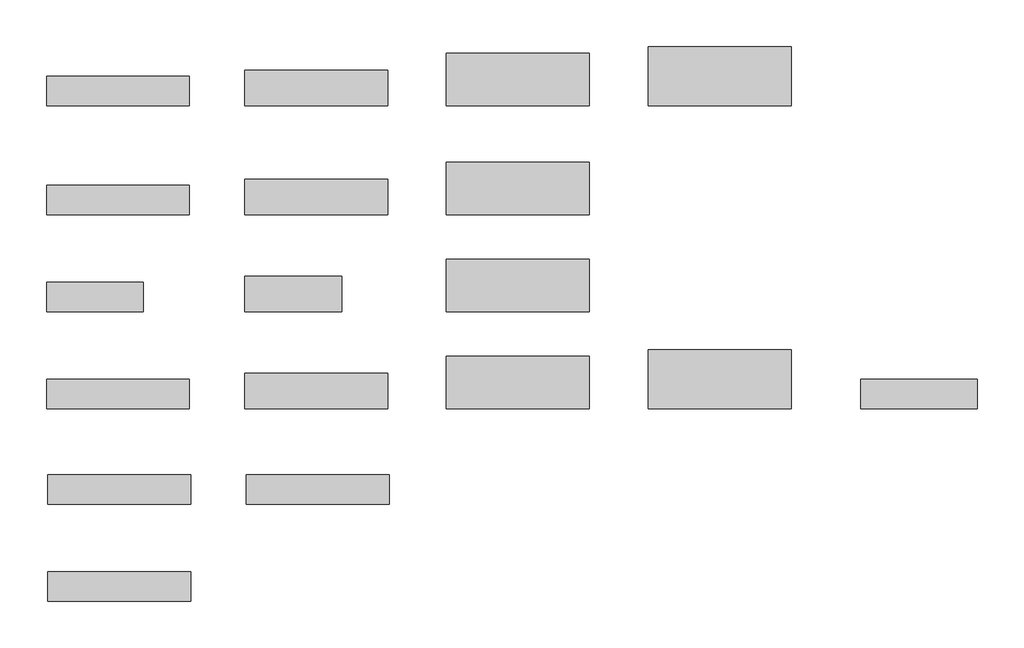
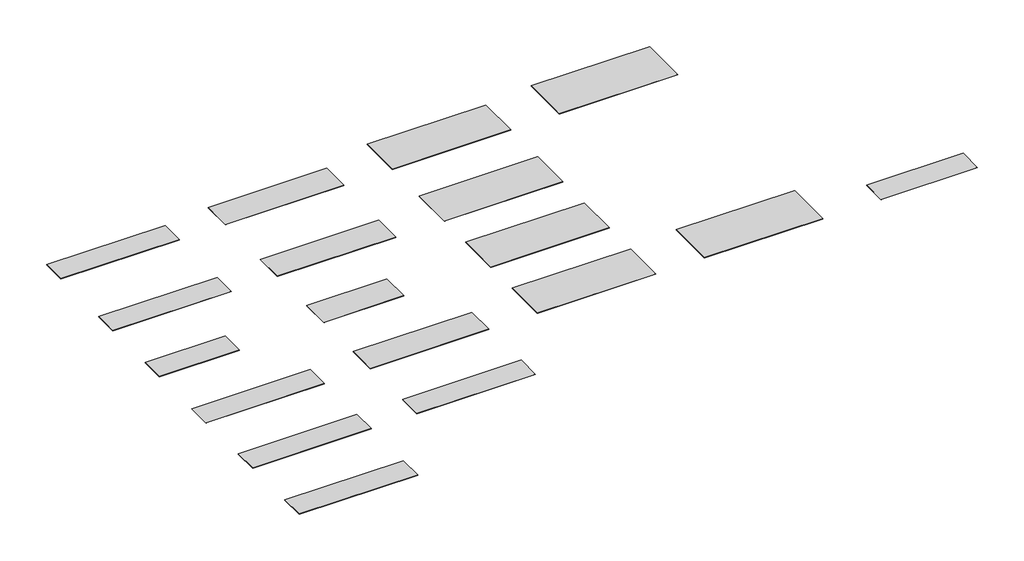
# One storey: 18 proxies.
"""IFC4 building model written with IfcOpenShell, lengths in millimetres."""

import ifcopenshell
import ifcopenshell.guid

model = None  # the IFC model being written
_history = None  # IfcOwnerHistory: only IFC2X3 demands one
_inside = {}  # id of a spatial element -> (the spatial element, [elements in it])
_under = {}  # id of a project, library or spatial element -> (it, [spatial elements below it])
_declared = {}  # id of a project -> (the project, [libraries it declares])
_typed = {}  # id of a type object -> (the type object, [elements of that type])
_made_of = {}  # id of a material, layer set ... -> (it, [elements and type objects made of it])


def new_model(schema):
    """Start an empty IFC model of exactly this schema.

    Asked for "IFC4X3", IfcOpenShell would pick the latest addendum, in which some entities
    have other attributes; the version numbers below select the first issue.
    IFC2X3 requires an IfcOwnerHistory on every rooted entity: one is made here for all.
    """
    global model, _history
    if schema == "IFC4X3":
        model = ifcopenshell.file(schema_version=(4, 3, 0, 0))
    else:
        model = ifcopenshell.file(schema=schema)
    _inside.clear()
    _under.clear()
    _declared.clear()
    _typed.clear()
    _made_of.clear()
    _history = None
    if model.schema == "IFC2X3":
        org = make("IfcOrganization", Name="unknown")
        user = make(
            "IfcPersonAndOrganization",
            ThePerson=make("IfcPerson", FamilyName="unknown"),
            TheOrganization=org,
        )
        app = make(
            "IfcApplication",
            ApplicationDeveloper=org,
            Version="unknown",
            ApplicationFullName="unknown",
            ApplicationIdentifier="unknown",
        )
        _history = make(
            "IfcOwnerHistory",
            OwningUser=user,
            OwningApplication=app,
            ChangeAction="ADDED",
            CreationDate=0,
        )
    return model


def make(cls, **values):
    """One entity of the class cls with the attributes given. An attribute that is None is left unset."""
    return model.create_entity(
        cls, **{name: value for name, value in values.items() if value is not None}
    )


def rooted(cls, **values):
    """An entity with a GlobalId (a new one), such as an element, a storey or a relation."""
    return make(cls, GlobalId=ifcopenshell.guid.new(), OwnerHistory=_history, **values)


def si_unit(unit_type, name, prefix=None):
    """IfcSIUnit, for example si_unit("LENGTHUNIT", "METRE", prefix="MILLI")."""
    return make("IfcSIUnit", UnitType=unit_type, Prefix=prefix, Name=name)


def assignment(units):
    """IfcUnitAssignment: the units of a project."""
    return None if units is None else make("IfcUnitAssignment", Units=units)


def point(xyz):
    """IfcCartesianPoint."""
    return None if xyz is None else make("IfcCartesianPoint", Coordinates=xyz)


def direction(xyz):
    """IfcDirection."""
    return None if xyz is None else make("IfcDirection", DirectionRatios=xyz)


def frame(location, z_axis=None, x_axis=None):
    """IfcAxis2Placement3D, a coordinate frame: its origin and axes. An axis left out is left unset."""
    return make(
        "IfcAxis2Placement3D",
        Location=point(location),
        Axis=direction(z_axis),
        RefDirection=direction(x_axis),
    )


def origin():
    """The frame at (0, 0, 0) with its axes left unset."""
    return frame((0.0, 0.0, 0.0))


def origin_with_axes():
    """The frame at (0, 0, 0) with the z axis (0, 0, 1) and the x axis (1, 0, 0) written out."""
    return frame((0.0, 0.0, 0.0), z_axis=(0.0, 0.0, 1.0), x_axis=(1.0, 0.0, 0.0))


def place(relative_to, where):
    """IfcLocalPlacement: puts the frame where relative to a parent placement (None: the world)."""
    return make(
        "IfcLocalPlacement", PlacementRelTo=relative_to, RelativePlacement=where
    )


def context(
    kind, dimensions, precision=None, world=None, true_north=None, identifier=None
):
    """IfcGeometricRepresentationContext, for example the 3D "Model" context."""
    return make(
        "IfcGeometricRepresentationContext",
        ContextIdentifier=identifier,
        ContextType=kind,
        CoordinateSpaceDimension=dimensions,
        Precision=precision,
        WorldCoordinateSystem=world,
        TrueNorth=true_north,
    )


def project(units=None, contexts=None):
    """IfcProject with its units and contexts."""
    return rooted(
        "IfcProject",
        Name="project",
        RepresentationContexts=contexts,
        UnitsInContext=assignment(units),
    )


def spatial(cls, under=None, at=None, **own):
    """A site, building, storey or space (cls), placed at a placement, below another one or the project."""
    s = rooted(cls, ObjectPlacement=at, **own)
    if under is not None:
        _under.setdefault(under.id(), (under, []))[1].append(s)
    return s


def polyline(points):
    """IfcPolyline through the points."""
    return make("IfcPolyline", Points=[point(p) for p in points])


def outline(outer, holes=None, kind="AREA"):
    """IfcArbitraryClosedProfileDef: a profile drawn as a closed curve; with holes, ...WithVoids."""
    if holes is None:
        return make("IfcArbitraryClosedProfileDef", ProfileType=kind, OuterCurve=outer)
    return make(
        "IfcArbitraryProfileDefWithVoids",
        ProfileType=kind,
        OuterCurve=outer,
        InnerCurves=holes,
    )


def extrude(swept, where, along, depth):
    """IfcExtrudedAreaSolid: the profile swept, set in the frame where, extruded along a direction by depth."""
    return make(
        "IfcExtrudedAreaSolid",
        SweptArea=swept,
        Position=where,
        ExtrudedDirection=direction(along),
        Depth=depth,
    )


def shape(context_of_items, identifier, shape_type, items):
    """IfcShapeRepresentation: the items that make up one representation, for example the "Body"."""
    return make(
        "IfcShapeRepresentation",
        ContextOfItems=context_of_items,
        RepresentationIdentifier=identifier,
        RepresentationType=shape_type,
        Items=items,
    )


def source(mapping_origin, context_of_items, identifier, shape_type, items):
    """IfcRepresentationMap: a shape defined once, which mapped items show again and again."""
    return make(
        "IfcRepresentationMap",
        MappingOrigin=mapping_origin,
        MappedRepresentation=shape(context_of_items, identifier, shape_type, items),
    )


def transform(
    local_origin,
    x_axis=None,
    y_axis=None,
    z_axis=None,
    scale=None,
    scale2=None,
    scale3=None,
    uniform=True,
):
    """IfcCartesianTransformationOperator3D, or its non-uniform kind. x_axis, y_axis, z_axis: its Axis1, 2, 3."""
    if uniform:
        return make(
            "IfcCartesianTransformationOperator3D",
            Axis1=direction(x_axis),
            Axis2=direction(y_axis),
            LocalOrigin=point(local_origin),
            Scale=scale,
            Axis3=direction(z_axis),
        )
    return make(
        "IfcCartesianTransformationOperator3DnonUniform",
        Axis1=direction(x_axis),
        Axis2=direction(y_axis),
        LocalOrigin=point(local_origin),
        Scale=scale,
        Axis3=direction(z_axis),
        Scale2=scale2,
        Scale3=scale3,
    )


def mapped(mapping_source, mapping_target):
    """IfcMappedItem: shows the shape of a source again, moved by a transform."""
    return make(
        "IfcMappedItem", MappingSource=mapping_source, MappingTarget=mapping_target
    )


def made_of(thing, what):
    """Note that an element or type object is made of a material, layer set ...; save() writes the relation."""
    if what is not None:
        _made_of.setdefault(what.id(), (what, []))[1].append(thing)
    return thing


def element(
    cls,
    number,
    at=None,
    inside=None,
    cuts=None,
    type_object=None,
    material=None,
    context=None,
    identifier="Body",
    shape_type=None,
    held_by="IfcProductDefinitionShape",
    body=None,
    shapes=None,
    **own,
):
    """One element of the class cls, such as IfcWall. Its Tag is "e" and its number.

    at: its placement. inside: the storey or other place that contains it. cuts: it is an
    opening in that element (IfcRelVoidsElement). A single representation is given by context,
    identifier, shape_type and body (its items); several are given by shapes. held_by: the class
    of the entity that holds the representations. save() writes the other relations.
    """
    e = rooted(cls, Tag="e%d" % number, ObjectPlacement=at, **own)
    if body is not None:
        shapes = [shape(context, identifier, shape_type, body)]
    if shapes is not None:
        e.Representation = make(held_by, Representations=shapes)
    if inside is not None:
        _inside.setdefault(inside.id(), (inside, []))[1].append(e)
    if cuts is not None:
        rooted(
            "IfcRelVoidsElement", RelatingBuildingElement=cuts, RelatedOpeningElement=e
        )
    if type_object is not None:
        _typed.setdefault(type_object.id(), (type_object, []))[1].append(e)
    return made_of(e, material)


def aggregate(whole, parts):
    """IfcRelAggregates: a whole, such as a stair, and the parts it consists of."""
    return rooted("IfcRelAggregates", RelatingObject=whole, RelatedObjects=parts)


def save(model, path):
    """Write the relations noted so far, then the file.

    IfcRelAggregates (storeys below a building ...), IfcRelContainedInSpatialStructure (elements
    in a storey), IfcRelDefinesByType, IfcRelAssociatesMaterial and IfcRelDeclares: one each for
    every whole, place, type object, material and project.
    """
    for whole, parts in _under.values():
        aggregate(whole, parts)
    for where, things in _inside.values():
        rooted(
            "IfcRelContainedInSpatialStructure",
            RelatedElements=things,
            RelatingStructure=where,
        )
    for kind, things in _typed.values():
        rooted("IfcRelDefinesByType", RelatedObjects=things, RelatingType=kind)
    for what, things in _made_of.values():
        rooted("IfcRelAssociatesMaterial", RelatedObjects=things, RelatingMaterial=what)
    for by, libraries in _declared.values():
        rooted("IfcRelDeclares", RelatingContext=by, RelatedDefinitions=libraries)
    model.write(path)


def g034_arctic_granite_12mm_760x3680mm_7f56e2ab(model_context):
    return source(origin(), model_context, "Body", "SweptSolid", [
        extrude(outline(polyline([(1840.0, 380.0), (1840.0, -380.0), (-1840.0, -380.0), (-1840.0, 380.0), (1840.0, 380.0)])), origin_with_axes(), (0.0, 0.0, 1.0), 12.0),
    ])


def g034_arctic_granite_12mm_1350x3680mm_c2ce3097(model_context):
    return source(origin(), model_context, "Body", "SweptSolid", [
        extrude(outline(polyline([(1840.0, 675.0), (1840.0, -675.0), (-1840.0, -675.0), (-1840.0, 675.0), (1840.0, 675.0)])), origin_with_axes(), (0.0, 0.0, 1.0), 12.0),
    ])


def g034_arctic_granite_12mm_1520x3680mm_bc4f7f2a(model_context):
    return source(origin(), model_context, "Body", "SweptSolid", [
        extrude(outline(polyline([(1840.0, 760.0), (1840.0, -760.0), (-1840.0, -760.0), (-1840.0, 760.0), (1840.0, 760.0)])), origin_with_axes(), (0.0, 0.0, 1.0), 12.0),
    ])


def g034_arctic_granite_12mm_910x3680mm_ebb0e17e(model_context):
    return source(origin(), model_context, "Body", "SweptSolid", [
        extrude(outline(polyline([(1840.0, 455.0), (1840.0, -455.0), (-1840.0, -455.0), (-1840.0, 455.0), (1840.0, 455.0)])), origin_with_axes(), (0.0, 0.0, 1.0), 12.0),
    ])


def g034_arctic_granite_6mm_760x2490mm_c0a7b58a(model_context):
    return source(origin(), model_context, "Body", "SweptSolid", [
        extrude(outline(polyline([(1245.0, 380.0), (1245.0, -380.0), (-1245.0, -380.0), (-1245.0, 380.0), (1245.0, 380.0)])), origin_with_axes(), (0.0, 0.0, 1.0), 12.0),
    ])


def g034_arctic_granite_6mm_910x2490mm_29e5721c(model_context):
    return source(origin(), model_context, "Body", "SweptSolid", [
        extrude(outline(polyline([(1245.0, 455.0), (1245.0, -455.0), (-1245.0, -455.0), (-1245.0, 455.0), (1245.0, 455.0)])), origin_with_axes(), (0.0, 0.0, 1.0), 12.0),
    ])


def g074_mocha_granite_20mm_760x3000mm_a6e596b7(model_context):
    return source(origin(), model_context, "Body", "SweptSolid", [
        extrude(outline(polyline([(1500.0, 380.0), (1500.0, -380.0), (-1500.0, -380.0), (-1500.0, 380.0), (1500.0, 380.0)])), origin_with_axes(), (0.0, 0.0, 1.0), 12.0),
    ])


model = new_model("IFC4")

# Units and contexts
model_context = context("Model", 3, world=origin())
ifc_project = project(units=[si_unit("LENGTHUNIT", "METRE", prefix="MILLI")], contexts=[model_context])

# Site, building, storey
site = spatial("IfcSite", under=ifc_project)
building = spatial("IfcBuilding", under=site)
storey = spatial("IfcBuildingStorey", under=building, Name="Perna", Elevation=0.0)

# Proxies
placement = place(None, origin())
g034_arctic_granite_12mm_760x3680mm_shape = g034_arctic_granite_12mm_760x3680mm_7f56e2ab(model_context)
element("IfcBuildingElementProxy", 1, Name="Kitchen_Counter-Tops_Indoor-Materials_HIMACS_Granite : G181_Windy_Hill-Granite_12mm_760x3680mm", ObjectType="Kitchen_Counter-Tops_Indoor-Materials_HIMACS_Granite : G181_Windy_Hill-Granite_12mm_760x3680mm", at=placement, inside=storey, context=model_context, shape_type="MappedRepresentation", body=[
    mapped(g034_arctic_granite_12mm_760x3680mm_shape, transform((-15693.1394565, -6235.7939615, 0.0), x_axis=(1.0, 0.0, 0.0), y_axis=(0.0, 1.0, 0.0), z_axis=(0.0, 0.0, 1.0))),
])
element("IfcBuildingElementProxy", 2, Name="Kitchen_Counter-Tops_Indoor-Materials_HIMACS_Granite : P001_Perna-White_12mm_760x3680mm", ObjectType="Kitchen_Counter-Tops_Indoor-Materials_HIMACS_Granite : P001_Perna-White_12mm_760x3680mm", at=placement, inside=storey, context=model_context, shape_type="MappedRepresentation", body=[
    mapped(g034_arctic_granite_12mm_760x3680mm_shape, transform((-20800.3216312, -8735.7939615, 0.0), x_axis=(1.0, 0.0, 0.0), y_axis=(0.0, 1.0, 0.0), z_axis=(0.0, 0.0, 1.0))),
])
g034_arctic_granite_12mm_1350x3680mm_shape = g034_arctic_granite_12mm_1350x3680mm_c2ce3097(model_context)
element("IfcBuildingElementProxy", 3, Name="Kitchen_Counter-Tops_Indoor-Materials_HIMACS_Granite : G034_Arctic-Granite_12mm_1350x3680mm", ObjectType="Kitchen_Counter-Tops_Indoor-Materials_HIMACS_Granite : G034_Arctic-Granite_12mm_1350x3680mm", at=placement, inside=storey, context=model_context, shape_type="MappedRepresentation", body=[
    mapped(g034_arctic_granite_12mm_1350x3680mm_shape, transform((-10538.8244354, 4324.1966332, 0.0), x_axis=(1.0, 0.0, 0.0), y_axis=(0.0, 1.0, 0.0), z_axis=(0.0, 0.0, 1.0))),
])
g034_arctic_granite_12mm_1520x3680mm_shape = g034_arctic_granite_12mm_1520x3680mm_bc4f7f2a(model_context)
element("IfcBuildingElementProxy", 4, Name="Kitchen_Counter-Tops_Indoor-Materials_HIMACS_Granite : G034_Arctic-Granite_12mm_1520x3680mm", ObjectType="Kitchen_Counter-Tops_Indoor-Materials_HIMACS_Granite : G034_Arctic-Granite_12mm_1520x3680mm", at=placement, inside=storey, context=model_context, shape_type="MappedRepresentation", body=[
    mapped(g034_arctic_granite_12mm_1520x3680mm_shape, transform((-5345.0121896, 4409.1966332, 0.0), x_axis=(1.0, 0.0, 0.0), y_axis=(0.0, 1.0, 0.0), z_axis=(0.0, 0.0, 1.0))),
])
element("IfcBuildingElementProxy", 5, Name="Kitchen_Counter-Tops_Indoor-Materials_HIMACS_Granite : G034_Arctic-Granite_12mm_760x3680mm", ObjectType="Kitchen_Counter-Tops_Indoor-Materials_HIMACS_Granite : G034_Arctic-Granite_12mm_760x3680mm", at=placement, inside=storey, context=model_context, shape_type="MappedRepresentation", body=[
    mapped(g034_arctic_granite_12mm_760x3680mm_shape, transform((-20833.2587718, 4029.1966332, 0.0), x_axis=(1.0, 0.0, 0.0), y_axis=(0.0, 1.0, 0.0), z_axis=(0.0, 0.0, 1.0))),
])
g034_arctic_granite_12mm_910x3680mm_shape = g034_arctic_granite_12mm_910x3680mm_ebb0e17e(model_context)
element("IfcBuildingElementProxy", 6, Name="Kitchen_Counter-Tops_Indoor-Materials_HIMACS_Granite : G034_Arctic-Granite_12mm_910x3680mm", ObjectType="Kitchen_Counter-Tops_Indoor-Materials_HIMACS_Granite : G034_Arctic-Granite_12mm_910x3680mm", at=placement, inside=storey, context=model_context, shape_type="MappedRepresentation", body=[
    mapped(g034_arctic_granite_12mm_910x3680mm_shape, transform((-15726.0765971, 4104.1966332, 0.0), x_axis=(1.0, 0.0, 0.0), y_axis=(0.0, 1.0, 0.0), z_axis=(0.0, 0.0, 1.0))),
])
element("IfcBuildingElementProxy", 7, Name="Kitchen_Counter-Tops_Indoor-Materials_HIMACS_Granite : G034_Arctic-Granite_6mm_1350x3680mm", ObjectType="Kitchen_Counter-Tops_Indoor-Materials_HIMACS_Granite : G034_Arctic-Granite_6mm_1350x3680mm", at=placement, inside=storey, context=model_context, shape_type="MappedRepresentation", body=[
    mapped(g034_arctic_granite_12mm_1350x3680mm_shape, transform((-10538.8244354, -981.184711, 0.0), x_axis=(1.0, 0.0, 0.0), y_axis=(0.0, 1.0, 0.0), z_axis=(0.0, 0.0, 1.0))),
])
g034_arctic_granite_6mm_760x2490mm_shape = g034_arctic_granite_6mm_760x2490mm_c0a7b58a(model_context)
element("IfcBuildingElementProxy", 8, Name="Kitchen_Counter-Tops_Indoor-Materials_HIMACS_Granite : G034_Arctic-Granite_6mm_760x2490mm", ObjectType="Kitchen_Counter-Tops_Indoor-Materials_HIMACS_Granite : G034_Arctic-Granite_6mm_760x2490mm", at=placement, inside=storey, context=model_context, shape_type="MappedRepresentation", body=[
    mapped(g034_arctic_granite_6mm_760x2490mm_shape, transform((-21428.2587718, -1276.184711, 0.0), x_axis=(1.0, 0.0, 0.0), y_axis=(0.0, 1.0, 0.0), z_axis=(0.0, 0.0, 1.0))),
])
g034_arctic_granite_6mm_910x2490mm_shape = g034_arctic_granite_6mm_910x2490mm_29e5721c(model_context)
element("IfcBuildingElementProxy", 9, Name="Kitchen_Counter-Tops_Indoor-Materials_HIMACS_Granite : G034_Arctic-Granite_6mm_910x2490mm", ObjectType="Kitchen_Counter-Tops_Indoor-Materials_HIMACS_Granite : G034_Arctic-Granite_6mm_910x2490mm", at=placement, inside=storey, context=model_context, shape_type="MappedRepresentation", body=[
    mapped(g034_arctic_granite_6mm_910x2490mm_shape, transform((-16321.0765971, -1201.184711, 0.0), x_axis=(1.0, 0.0, 0.0), y_axis=(0.0, 1.0, 0.0), z_axis=(0.0, 0.0, 1.0))),
])
element("IfcBuildingElementProxy", 10, Name="Kitchen_Counter-Tops_Indoor-Materials_HIMACS_Granite : G034_Arctic-Granite_9mm_1350x3680mm", ObjectType="Kitchen_Counter-Tops_Indoor-Materials_HIMACS_Granite : G034_Arctic-Granite_9mm_1350x3680mm", at=placement, inside=storey, context=model_context, shape_type="MappedRepresentation", body=[
    mapped(g034_arctic_granite_12mm_1350x3680mm_shape, transform((-10538.8244354, 1515.9496118, 0.0), x_axis=(1.0, 0.0, 0.0), y_axis=(0.0, 1.0, 0.0), z_axis=(0.0, 0.0, 1.0))),
])
element("IfcBuildingElementProxy", 11, Name="Kitchen_Counter-Tops_Indoor-Materials_HIMACS_Granite : G034_Arctic-Granite_9mm_760x3680mm", ObjectType="Kitchen_Counter-Tops_Indoor-Materials_HIMACS_Granite : G034_Arctic-Granite_9mm_760x3680mm", at=placement, inside=storey, context=model_context, shape_type="MappedRepresentation", body=[
    mapped(g034_arctic_granite_12mm_760x3680mm_shape, transform((-20833.2587718, 1220.9496118, 0.0), x_axis=(1.0, 0.0, 0.0), y_axis=(0.0, 1.0, 0.0), z_axis=(0.0, 0.0, 1.0))),
])
element("IfcBuildingElementProxy", 12, Name="Kitchen_Counter-Tops_Indoor-Materials_HIMACS_Granite : G034_Arctic-Granite_9mm_910x3680mm", ObjectType="Kitchen_Counter-Tops_Indoor-Materials_HIMACS_Granite : G034_Arctic-Granite_9mm_910x3680mm", at=placement, inside=storey, context=model_context, shape_type="MappedRepresentation", body=[
    mapped(g034_arctic_granite_12mm_910x3680mm_shape, transform((-15726.0765971, 1295.9496118, 0.0), x_axis=(1.0, 0.0, 0.0), y_axis=(0.0, 1.0, 0.0), z_axis=(0.0, 0.0, 1.0))),
])
element("IfcBuildingElementProxy", 13, Name="Kitchen_Counter-Tops_Indoor-Materials_HIMACS_Granite : G074_Mocha-Granite_12mm_1350x3680mm", ObjectType="Kitchen_Counter-Tops_Indoor-Materials_HIMACS_Granite : G074_Mocha-Granite_12mm_1350x3680mm", at=placement, inside=storey, context=model_context, shape_type="MappedRepresentation", body=[
    mapped(g034_arctic_granite_12mm_1350x3680mm_shape, transform((-10538.8244354, -3478.3190338, 0.0), x_axis=(1.0, 0.0, 0.0), y_axis=(0.0, 1.0, 0.0), z_axis=(0.0, 0.0, 1.0))),
])
element("IfcBuildingElementProxy", 14, Name="Kitchen_Counter-Tops_Indoor-Materials_HIMACS_Granite : G074_Mocha-Granite_12mm_1520x3680mm", ObjectType="Kitchen_Counter-Tops_Indoor-Materials_HIMACS_Granite : G074_Mocha-Granite_12mm_1520x3680mm", at=placement, inside=storey, context=model_context, shape_type="MappedRepresentation", body=[
    mapped(g034_arctic_granite_12mm_1520x3680mm_shape, transform((-5345.0121896, -3393.3190338, 0.0), x_axis=(1.0, 0.0, 0.0), y_axis=(0.0, 1.0, 0.0), z_axis=(0.0, 0.0, 1.0))),
])
element("IfcBuildingElementProxy", 15, Name="Kitchen_Counter-Tops_Indoor-Materials_HIMACS_Granite : G074_Mocha-Granite_12mm_760x3680mm", ObjectType="Kitchen_Counter-Tops_Indoor-Materials_HIMACS_Granite : G074_Mocha-Granite_12mm_760x3680mm", at=placement, inside=storey, context=model_context, shape_type="MappedRepresentation", body=[
    mapped(g034_arctic_granite_12mm_760x3680mm_shape, transform((-20833.2587718, -3773.3190338, 0.0), x_axis=(1.0, 0.0, 0.0), y_axis=(0.0, 1.0, 0.0), z_axis=(0.0, 0.0, 1.0))),
])
element("IfcBuildingElementProxy", 16, Name="Kitchen_Counter-Tops_Indoor-Materials_HIMACS_Granite : G074_Mocha-Granite_12mm_910x3680mm", ObjectType="Kitchen_Counter-Tops_Indoor-Materials_HIMACS_Granite : G074_Mocha-Granite_12mm_910x3680mm", at=placement, inside=storey, context=model_context, shape_type="MappedRepresentation", body=[
    mapped(g034_arctic_granite_12mm_910x3680mm_shape, transform((-15726.0765971, -3698.3190338, 0.0), x_axis=(1.0, 0.0, 0.0), y_axis=(0.0, 1.0, 0.0), z_axis=(0.0, 0.0, 1.0))),
])
g074_mocha_granite_20mm_760x3000mm_shape = g074_mocha_granite_20mm_760x3000mm_a6e596b7(model_context)
element("IfcBuildingElementProxy", 17, Name="Kitchen_Counter-Tops_Indoor-Materials_HIMACS_Granite : G074_Mocha-Granite_20mm_760x3000mm", ObjectType="Kitchen_Counter-Tops_Indoor-Materials_HIMACS_Granite : G074_Mocha-Granite_20mm_760x3000mm", at=placement, inside=storey, context=model_context, shape_type="MappedRepresentation", body=[
    mapped(g074_mocha_granite_20mm_760x3000mm_shape, transform((-204.6610273, -3773.3190338, 0.0), x_axis=(1.0, 0.0, 0.0), y_axis=(0.0, 1.0, 0.0), z_axis=(0.0, 0.0, 1.0))),
])
element("IfcBuildingElementProxy", 18, Name="Kitchen_Counter-Tops_Indoor-Materials_HIMACS_Granite : G180_Cotton_Field-Granite_12mm_760x3680mm", ObjectType="Kitchen_Counter-Tops_Indoor-Materials_HIMACS_Granite : G180_Cotton_Field-Granite_12mm_760x3680mm", at=placement, inside=storey, context=model_context, shape_type="MappedRepresentation", body=[
    mapped(g034_arctic_granite_12mm_760x3680mm_shape, transform((-20800.3216312, -6235.7939615, 0.0), x_axis=(1.0, 0.0, 0.0), y_axis=(0.0, 1.0, 0.0), z_axis=(0.0, 0.0, 1.0))),
])

save(model, "model.ifc")
